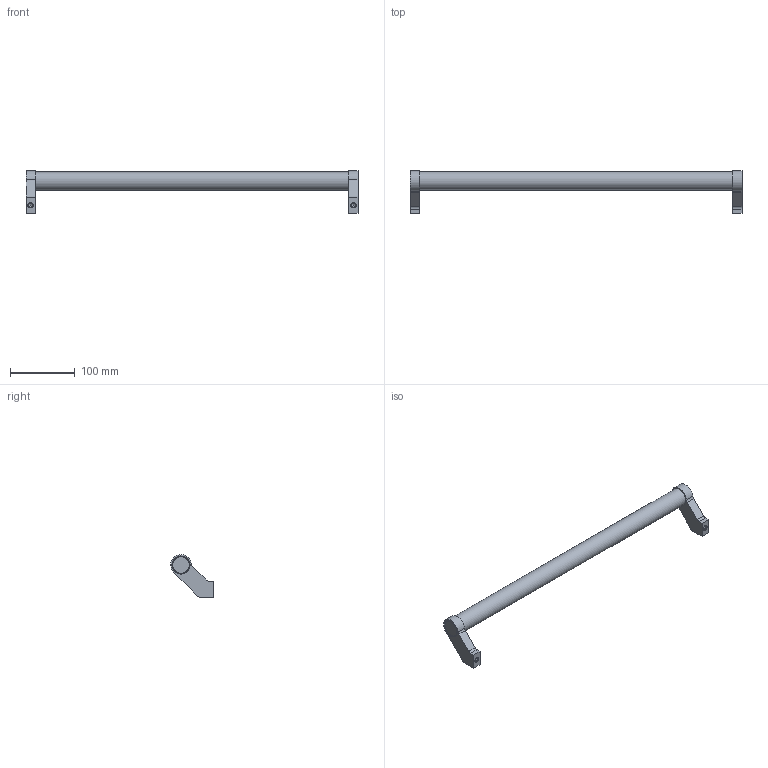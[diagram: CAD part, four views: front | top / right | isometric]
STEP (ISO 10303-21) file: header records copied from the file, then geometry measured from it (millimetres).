
FILE_DESCRIPTION( ( 'STEP AP203' ), '1' );
FILE_NAME( 'C:/Temp/Ganter_Step_05_03_2020/data/1_2/gn333/Tubular handle GN 333-28-500-A-EL.stp', '2020-03-05T10:16:17', ( 'License CC BY-ND 4.0' ), ( 'CADENAS' ), ' ', 'PARTsolutions', ' ' );
FILE_SCHEMA( ( 'CONFIG_CONTROL_DESIGN' ) );
Length unit declared in the file: millimetre
Products named in the file (1): _Tubular handle GN 333-28-500-A-EL
Bounding box: 514 x 65.95 x 65.97 mm (x, y, z)
Volume: 359797.1 mm3; surface area: 57449.2 mm2
Topology: 1 solids, 1 shells, 47 faces, 110 edges, 71 vertices
Faces by surface type: plane 26, cylinder 15, cone 4, torus 2
Full cylindrical faces by diameter (mm): 6.647 x2, 8.5 x2, 28 x3
Entity records: 1348 total; most frequent: CARTESIAN_POINT 278, DIRECTION 218, ORIENTED_EDGE 188, EDGE_CURVE 94, AXIS2_PLACEMENT_3D 84, VERTEX_POINT 68, EDGE_LOOP 64, FACE_OUTER_BOUND 54
